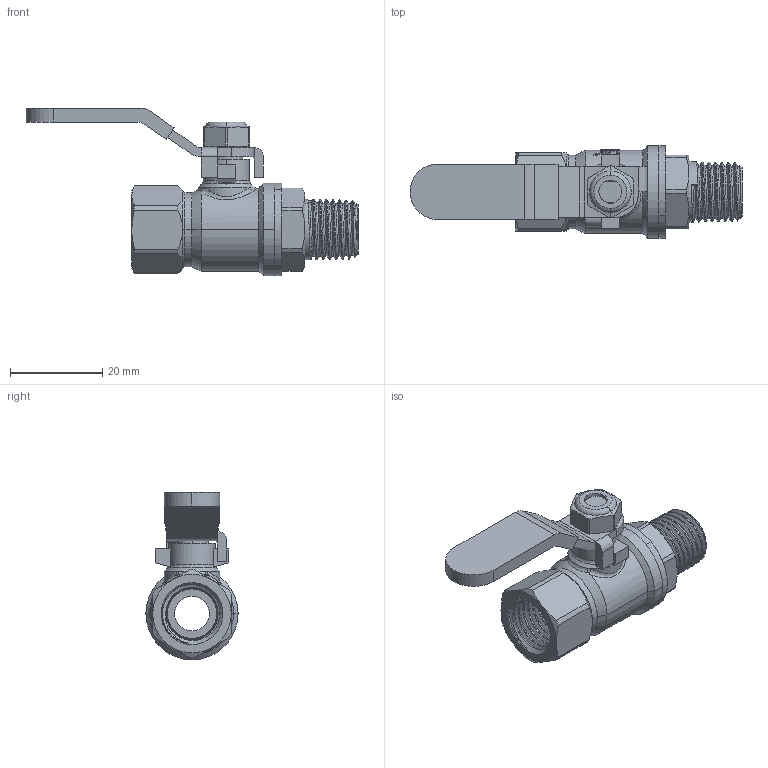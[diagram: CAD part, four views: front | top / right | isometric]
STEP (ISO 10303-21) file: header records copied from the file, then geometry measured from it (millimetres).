
FILE_DESCRIPTION(('Open CASCADE Model'),'2;1');
FILE_NAME('Open CASCADE Shape Model','2021-12-15T12:11:17',('Author'),( 'Open CASCADE'),'Open CASCADE STEP processor 7.3','Open CASCADE 7.3' ,'Unknown');
FILE_SCHEMA(('AUTOMOTIVE_DESIGN { 1 0 10303 214 1 1 1 1 }'));
Length unit declared in the file: millimetre
Products named in the file (11): Open CASCADE STEP translator 7.3 1; Open CASCADE STEP translator 7.3 1.1; Open CASCADE STEP translator 7.3 1.2; Open CASCADE STEP translator 7.3 1.3; Open CASCADE STEP translator 7.3 1.4; Open CASCADE STEP translator 7.3 1.5; Open CASCADE STEP translator 7.3 1.6; Open CASCADE STEP translator 7.3 1.7; Open CASCADE STEP translator 7.3 1.8; Open CASCADE STEP translator 7.3 1.9; Open CASCADE STEP translator 7.3 1.10
Assembly tree (10 placements, depth 2):
  Open CASCADE STEP translator 7.3 1
    Open CASCADE STEP translator 7.3 1.1
    Open CASCADE STEP translator 7.3 1.2
    Open CASCADE STEP translator 7.3 1.3
    Open CASCADE STEP translator 7.3 1.4
    Open CASCADE STEP translator 7.3 1.5
    Open CASCADE STEP translator 7.3 1.6
    Open CASCADE STEP translator 7.3 1.7
    Open CASCADE STEP translator 7.3 1.8
    Open CASCADE STEP translator 7.3 1.9
    Open CASCADE STEP translator 7.3 1.10
Bounding box: 71.93 x 20 x 36.3 mm (x, y, z)
Volume: 9895.1 mm3; surface area: 10833.5 mm2
Topology: 10 solids, 10 shells, 540 faces, 1397 edges, 899 vertices
Faces by surface type: cylinder 147, plane 136, bspline 131, cone 84, torus 34, sphere 6, revolution 2
Entity records: 96017 total; most frequent: CARTESIAN_POINT 71754, DIRECTION 3379, ORIENTED_EDGE 2790, PCURVE 2790, DEFINITIONAL_REPRESENTATION 2790, LINE 1737, VECTOR 1737, B_SPLINE_CURVE_WITH_KNOTS 1734
